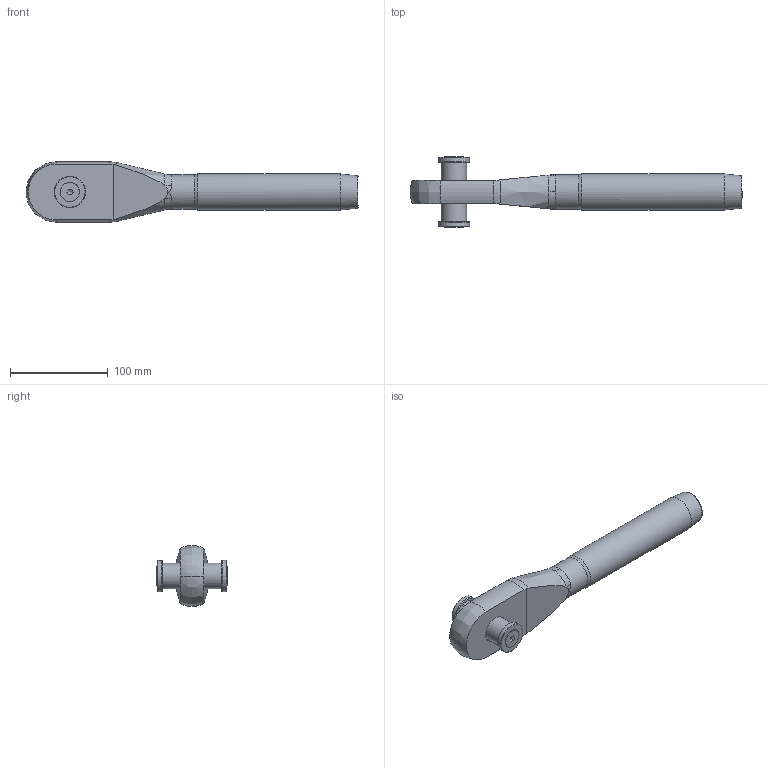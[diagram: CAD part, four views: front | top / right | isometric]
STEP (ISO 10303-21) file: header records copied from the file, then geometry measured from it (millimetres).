
FILE_DESCRIPTION(/* description */ (''),/* implementation_level */ '2;1');
FILE_NAME(/* name */ 'MCC 18_1,4418',/* time_stamp */ '2023-05-23T15:40:33+02:00',/* author */ (''),/* organization */ (''),/* preprocessor_version */ 'ST-DEVELOPER v16.5',/* originating_system */ 'Rhino 7.22',/* authorisation */ '');
FILE_SCHEMA (('CONFIG_CONTROL_DESIGN'));
Length unit declared in the file: millimetre
Products named in the file (1): Document
Bounding box: 339 x 72.16 x 62 mm (x, y, z)
Volume: 418136.5 mm3; surface area: 59697.7 mm2
Topology: 6 solids, 6 shells, 74 faces, 203 edges, 135 vertices
Faces by surface type: bspline 31, plane 27, cylinder 16
Full cylindrical faces by diameter (mm): 8.376 x2, 10 x2, 10.5 x2, 19.22 x2, 26 x1, 28 x1, 32 x2, 35 x1, 36.8 x1
Entity records: 3235 total; most frequent: CARTESIAN_POINT 1980, ORIENTED_EDGE 386, EDGE_CURVE 193, VERTEX_POINT 135, EDGE_LOOP 84, ADVANCED_FACE 74, FACE_OUTER_BOUND 74, B_SPLINE_CURVE_WITH_KNOTS 64
